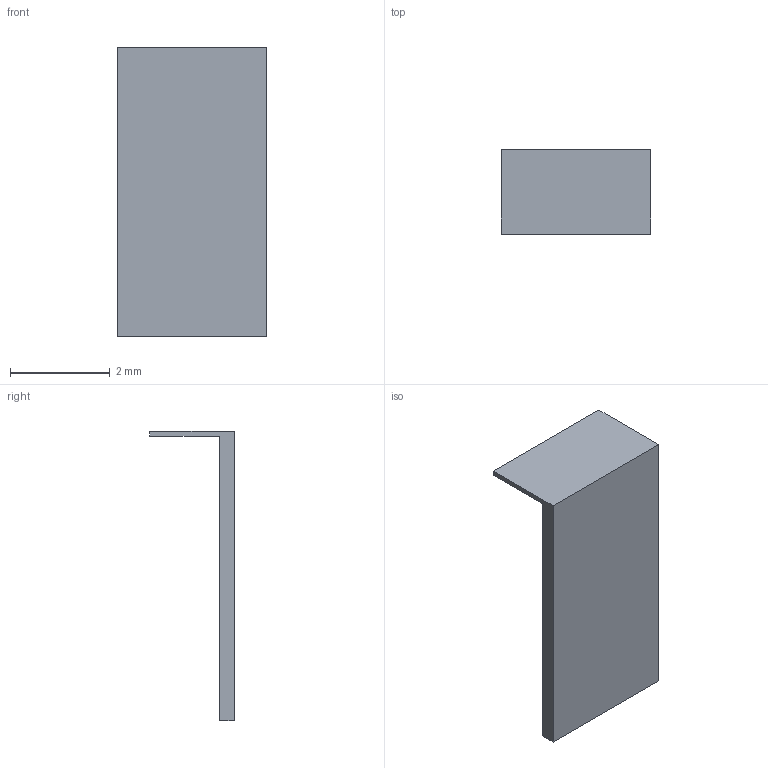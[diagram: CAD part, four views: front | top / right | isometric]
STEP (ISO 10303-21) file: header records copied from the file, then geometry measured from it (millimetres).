
FILE_DESCRIPTION(('Open CASCADE Model'),'2;1');
FILE_NAME('Open CASCADE Shape Model','2026-11-23T18:10:19',('Author'),( 'Open CASCADE'),'Open CASCADE STEP processor 8.0','build123d', 'Unknown');
FILE_SCHEMA(('AUTOMOTIVE_DESIGN { 1 0 10303 214 1 1 1 1 }'));
Length unit declared in the file: millimetre
Products named in the file (1): SOLID
Bounding box: 3 x 1.7 x 5.8 mm (x, y, z)
Volume: 5.6 mm3; surface area: 48.8 mm2
Topology: 1 solids, 1 shells, 8 faces, 18 edges, 12 vertices
Faces by surface type: plane 8
Entity records: 464 total; most frequent: CARTESIAN_POINT 77, DIRECTION 70, LINE 52, VECTOR 52, ORIENTED_EDGE 36, PCURVE 36, DEFINITIONAL_REPRESENTATION 36, EDGE_CURVE 18
